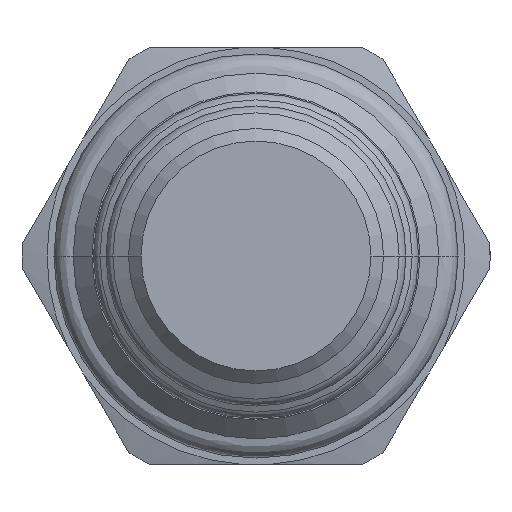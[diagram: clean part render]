
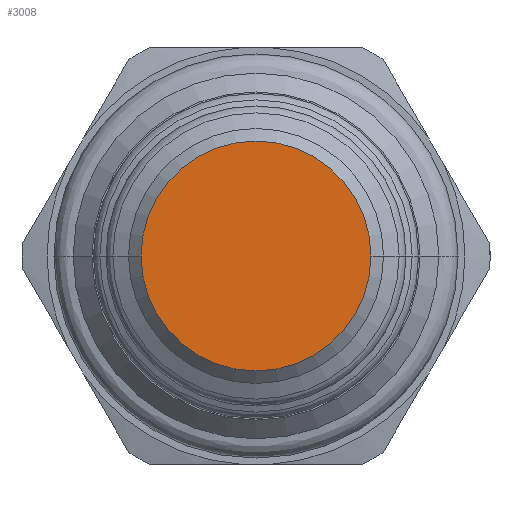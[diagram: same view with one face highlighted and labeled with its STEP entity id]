
A CAD part, front view. The second image highlights one B-rep face of the part: STEP entity #3008.
In plain terms, the highlighted planar face has unit normal (0, -1, 0).
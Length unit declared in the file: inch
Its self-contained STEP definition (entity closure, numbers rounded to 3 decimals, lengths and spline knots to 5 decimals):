
#1180=CARTESIAN_POINT('',(0.,-2.501,0.));
#1181=DIRECTION('',(0.,-1.,0.));
#1182=DIRECTION('',(-1.,0.,0.));
#1183=AXIS2_PLACEMENT_3D('',#1180,#1181,#1182);
#1198=CARTESIAN_POINT('',(0.,-2.501,0.));
#1199=DIRECTION('',(0.,-1.,0.));
#1200=DIRECTION('',(1.,0.,0.));
#1201=AXIS2_PLACEMENT_3D('',#1198,#1199,#1200);
#1343=CARTESIAN_POINT('',(0.275,-2.501,0.));
#1344=CARTESIAN_POINT('',(-0.275,-2.501,0.));
#1345=VERTEX_POINT('',#1343);
#1346=VERTEX_POINT('',#1344);
#2998=CARTESIAN_POINT('',(0.,-2.501,0.));
#2999=DIRECTION('',(0.,1.,0.));
#3000=DIRECTION('',(1.,0.,0.));
#3001=AXIS2_PLACEMENT_3D('',#2998,#2999,#3000);
#3002=PLANE('',#3001);
#3003=ORIENTED_EDGE('',*,*,#2988,.F.);
#3005=ORIENTED_EDGE('',*,*,#3004,.F.);
#3006=EDGE_LOOP('',(#3003,#3005));
#3007=FACE_OUTER_BOUND('',#3006,.F.);
#3008=ADVANCED_FACE('',(#3007),#3002,.F.);
#1184=CIRCLE('',#1183,0.275);
#1202=CIRCLE('',#1201,0.275);
#2988=EDGE_CURVE('',#1346,#1345,#1184,.T.);
#3004=EDGE_CURVE('',#1345,#1346,#1202,.T.);
